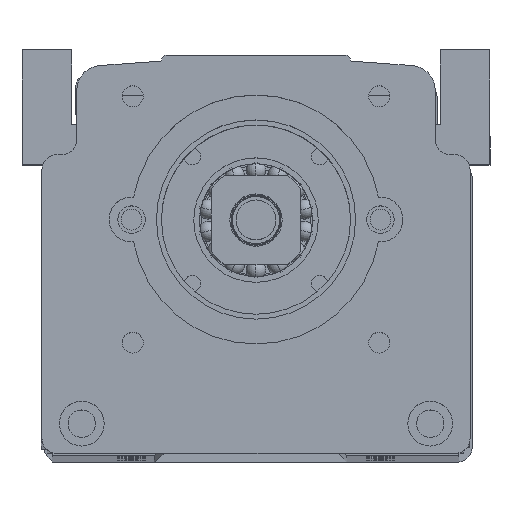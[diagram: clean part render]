
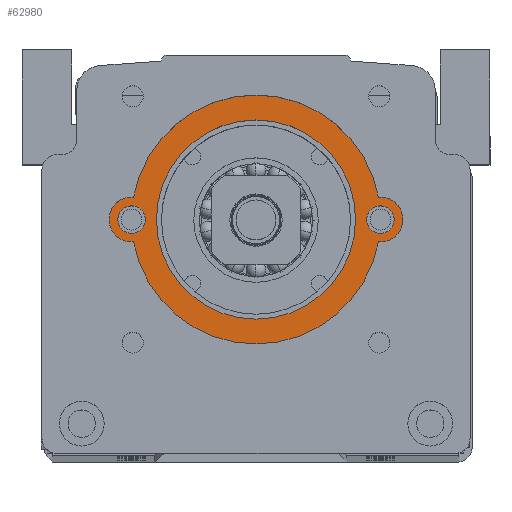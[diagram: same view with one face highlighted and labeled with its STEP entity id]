
A CAD part, top view. The second image highlights one B-rep face of the part: STEP entity #62980.
In plain terms, the highlighted planar face has unit normal (0, 0, 1).
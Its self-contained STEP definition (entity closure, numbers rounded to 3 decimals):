
#2 = CARTESIAN_POINT ( 'NONE',  ( 16.857, 5.327, 7. ) ) ;
#549 = CARTESIAN_POINT ( 'NONE',  ( 16.857, 5.327, 7. ) ) ;
#2821 = AXIS2_PLACEMENT_3D ( 'NONE', #22229, #60297, #27773 ) ;
#3112 = ORIENTED_EDGE ( 'NONE', *, *, #35844, .F. ) ;
#3959 = CIRCLE ( 'NONE', #25624, 2.75 ) ;
#3969 = ORIENTED_EDGE ( 'NONE', *, *, #48554, .F. ) ;
#5495 = DIRECTION ( 'NONE',  ( 1., 0., 0. ) ) ;
#5866 = FACE_BOUND ( 'NONE', #51346, .T. ) ;
#6008 = DIRECTION ( 'NONE',  ( 1., 0., 0. ) ) ;
#6094 = CARTESIAN_POINT ( 'NONE',  ( -8.143, 5.327, 7. ) ) ;
#6361 = CARTESIAN_POINT ( 'NONE',  ( 14.107, 5.327, 7. ) ) ;
#7113 = ORIENTED_EDGE ( 'NONE', *, *, #51746, .T. ) ;
#7940 = ORIENTED_EDGE ( 'NONE', *, *, #31279, .F. ) ;
#10020 = ORIENTED_EDGE ( 'NONE', *, *, #32312, .T. ) ;
#10498 = CIRCLE ( 'NONE', #49753, 20. ) ;
#10830 = CARTESIAN_POINT ( 'NONE',  ( 19.607, 5.327, 7. ) ) ;
#11037 = VERTEX_POINT ( 'NONE', #67711 ) ;
#11162 = EDGE_CURVE ( 'NONE', #38718, #57650, #13136, .T. ) ;
#11586 = DIRECTION ( 'NONE',  ( 1., 0., 0. ) ) ;
#11696 = VERTEX_POINT ( 'NONE', #55716 ) ;
#12441 = CARTESIAN_POINT ( 'NONE',  ( -33.143, 5.327, 7. ) ) ;
#13136 = CIRCLE ( 'NONE', #68907, 4.5 ) ;
#14631 = DIRECTION ( 'NONE',  ( 0., 0., 1. ) ) ;
#17869 = DIRECTION ( 'NONE',  ( 1., 0., 0. ) ) ;
#18355 = DIRECTION ( 'NONE',  ( 0., 0., 1. ) ) ;
#21343 = ORIENTED_EDGE ( 'NONE', *, *, #37476, .F. ) ;
#21809 = VERTEX_POINT ( 'NONE', #28829 ) ;
#22218 = DIRECTION ( 'NONE',  ( 0., 0., 1. ) ) ;
#22229 = CARTESIAN_POINT ( 'NONE',  ( -33.143, 5.327, 7. ) ) ;
#22356 = ORIENTED_EDGE ( 'NONE', *, *, #41976, .T. ) ;
#23737 = FACE_OUTER_BOUND ( 'NONE', #23907, .T. ) ;
#23907 = EDGE_LOOP ( 'NONE', ( #49424, #7113, #10020, #55364, #22356 ) ) ;
#24705 = AXIS2_PLACEMENT_3D ( 'NONE', #27605, #65647, #33075 ) ;
#25624 = AXIS2_PLACEMENT_3D ( 'NONE', #549, #38624, #6008 ) ;
#26797 = CIRCLE ( 'NONE', #41421, 4.5 ) ;
#27605 = CARTESIAN_POINT ( 'NONE',  ( -8.143, 5.327, 7. ) ) ;
#27773 = DIRECTION ( 'NONE',  ( 1., 0., 0. ) ) ;
#28026 = DIRECTION ( 'NONE',  ( 1., 0., 0. ) ) ;
#28829 = CARTESIAN_POINT ( 'NONE',  ( -28.143, 5.327, 7. ) ) ;
#29174 = EDGE_LOOP ( 'NONE', ( #21343, #3112 ) ) ;
#30399 = CARTESIAN_POINT ( 'NONE',  ( 16.857, 5.327, 7. ) ) ;
#30849 = CARTESIAN_POINT ( 'NONE',  ( 16.857, 5.327, 7. ) ) ;
#30928 = AXIS2_PLACEMENT_3D ( 'NONE', #12441, #50454, #17869 ) ;
#31279 = EDGE_CURVE ( 'NONE', #11696, #32748, #32002, .T. ) ;
#32002 = CIRCLE ( 'NONE', #30928, 2.75 ) ;
#32312 = EDGE_CURVE ( 'NONE', #52063, #38718, #26797, .T. ) ;
#32748 = VERTEX_POINT ( 'NONE', #60670 ) ;
#33075 = DIRECTION ( 'NONE',  ( 1., 0., 0. ) ) ;
#33789 = VERTEX_POINT ( 'NONE', #46251 ) ;
#34307 = ORIENTED_EDGE ( 'NONE', *, *, #65632, .F. ) ;
#34365 = VERTEX_POINT ( 'NONE', #36631 ) ;
#35829 = DIRECTION ( 'NONE',  ( 1., 0., 0. ) ) ;
#35844 = EDGE_CURVE ( 'NONE', #34365, #21809, #10498, .T. ) ;
#36303 = DIRECTION ( 'NONE',  ( 1., 0., 0. ) ) ;
#36515 = FACE_BOUND ( 'NONE', #68719, .T. ) ;
#36631 = CARTESIAN_POINT ( 'NONE',  ( 11.857, 5.327, 7. ) ) ;
#36917 = EDGE_CURVE ( 'NONE', #11037, #33789, #63114, .T. ) ;
#37476 = EDGE_CURVE ( 'NONE', #21809, #34365, #40930, .T. ) ;
#38099 = DIRECTION ( 'NONE',  ( 0., 0., 1. ) ) ;
#38624 = DIRECTION ( 'NONE',  ( 0., 0., 1. ) ) ;
#38718 = VERTEX_POINT ( 'NONE', #41729 ) ;
#40930 = CIRCLE ( 'NONE', #24705, 20. ) ;
#41421 = AXIS2_PLACEMENT_3D ( 'NONE', #30399, #68432, #35829 ) ;
#41729 = CARTESIAN_POINT ( 'NONE',  ( 21.357, 5.327, 7. ) ) ;
#41976 = EDGE_CURVE ( 'NONE', #57650, #11037, #69544, .T. ) ;
#43462 = CARTESIAN_POINT ( 'NONE',  ( -33.143, 5.327, 7. ) ) ;
#44145 = DIRECTION ( 'NONE',  ( 0., 0., 1. ) ) ;
#46035 = AXIS2_PLACEMENT_3D ( 'NONE', #43462, #60571, #28026 ) ;
#46251 = CARTESIAN_POINT ( 'NONE',  ( -32.738, 0.845, 7. ) ) ;
#46884 = CIRCLE ( 'NONE', #60205, 25. ) ;
#47202 = CARTESIAN_POINT ( 'NONE',  ( -8.143, 5.327, 7. ) ) ;
#47460 = AXIS2_PLACEMENT_3D ( 'NONE', #2, #38099, #5495 ) ;
#48554 = EDGE_CURVE ( 'NONE', #63034, #49511, #50445, .T. ) ;
#49318 = AXIS2_PLACEMENT_3D ( 'NONE', #50922, #18355, #56367 ) ;
#49424 = ORIENTED_EDGE ( 'NONE', *, *, #36917, .T. ) ;
#49511 = VERTEX_POINT ( 'NONE', #10830 ) ;
#49646 = PLANE ( 'NONE',  #46035 ) ;
#49753 = AXIS2_PLACEMENT_3D ( 'NONE', #6094, #44145, #11586 ) ;
#50026 = CARTESIAN_POINT ( 'NONE',  ( 16.452, 0.845, 7. ) ) ;
#50445 = CIRCLE ( 'NONE', #47460, 2.75 ) ;
#50454 = DIRECTION ( 'NONE',  ( 0., 0., 1. ) ) ;
#50922 = CARTESIAN_POINT ( 'NONE',  ( -33.143, 5.327, 7. ) ) ;
#51346 = EDGE_LOOP ( 'NONE', ( #3969, #34307 ) ) ;
#51746 = EDGE_CURVE ( 'NONE', #33789, #52063, #46884, .T. ) ;
#52063 = VERTEX_POINT ( 'NONE', #50026 ) ;
#52676 = DIRECTION ( 'NONE',  ( 1., 0., 0. ) ) ;
#54833 = CARTESIAN_POINT ( 'NONE',  ( -8.143, 5.327, 7. ) ) ;
#55061 = CIRCLE ( 'NONE', #2821, 2.75 ) ;
#55364 = ORIENTED_EDGE ( 'NONE', *, *, #11162, .T. ) ;
#55716 = CARTESIAN_POINT ( 'NONE',  ( -30.393, 5.327, 7. ) ) ;
#56367 = DIRECTION ( 'NONE',  ( 1., 0., 0. ) ) ;
#57650 = VERTEX_POINT ( 'NONE', #61775 ) ;
#58550 = AXIS2_PLACEMENT_3D ( 'NONE', #54833, #22218, #60283 ) ;
#60205 = AXIS2_PLACEMENT_3D ( 'NONE', #47202, #14631, #52676 ) ;
#60283 = DIRECTION ( 'NONE',  ( 1., 0., 0. ) ) ;
#60297 = DIRECTION ( 'NONE',  ( 0., 0., 1. ) ) ;
#60571 = DIRECTION ( 'NONE',  ( 0., 0., 1. ) ) ;
#60670 = CARTESIAN_POINT ( 'NONE',  ( -35.893, 5.327, 7. ) ) ;
#61775 = CARTESIAN_POINT ( 'NONE',  ( 16.452, 9.808, 7. ) ) ;
#62022 = FACE_BOUND ( 'NONE', #29174, .T. ) ;
#62980 = ADVANCED_FACE ( 'NONE', ( #36515, #23737, #5866, #62022 ), #49646, .T. ) ;
#63034 = VERTEX_POINT ( 'NONE', #6361 ) ;
#63114 = CIRCLE ( 'NONE', #49318, 4.5 ) ;
#64934 = EDGE_CURVE ( 'NONE', #32748, #11696, #55061, .T. ) ;
#65632 = EDGE_CURVE ( 'NONE', #49511, #63034, #3959, .T. ) ;
#65647 = DIRECTION ( 'NONE',  ( 0., 0., 1. ) ) ;
#67711 = CARTESIAN_POINT ( 'NONE',  ( -32.738, 9.808, 7. ) ) ;
#68432 = DIRECTION ( 'NONE',  ( 0., 0., 1. ) ) ;
#68719 = EDGE_LOOP ( 'NONE', ( #70405, #7940 ) ) ;
#68865 = DIRECTION ( 'NONE',  ( 0., 0., 1. ) ) ;
#68907 = AXIS2_PLACEMENT_3D ( 'NONE', #30849, #68865, #36303 ) ;
#69544 = CIRCLE ( 'NONE', #58550, 25. ) ;
#70405 = ORIENTED_EDGE ( 'NONE', *, *, #64934, .F. ) ;
